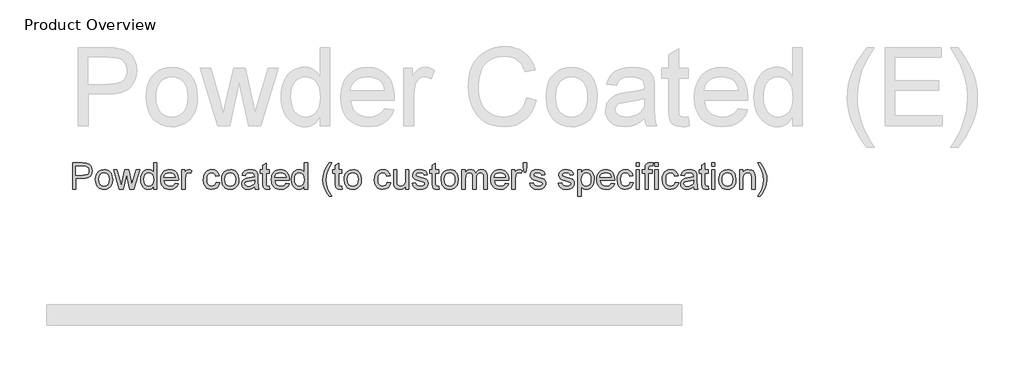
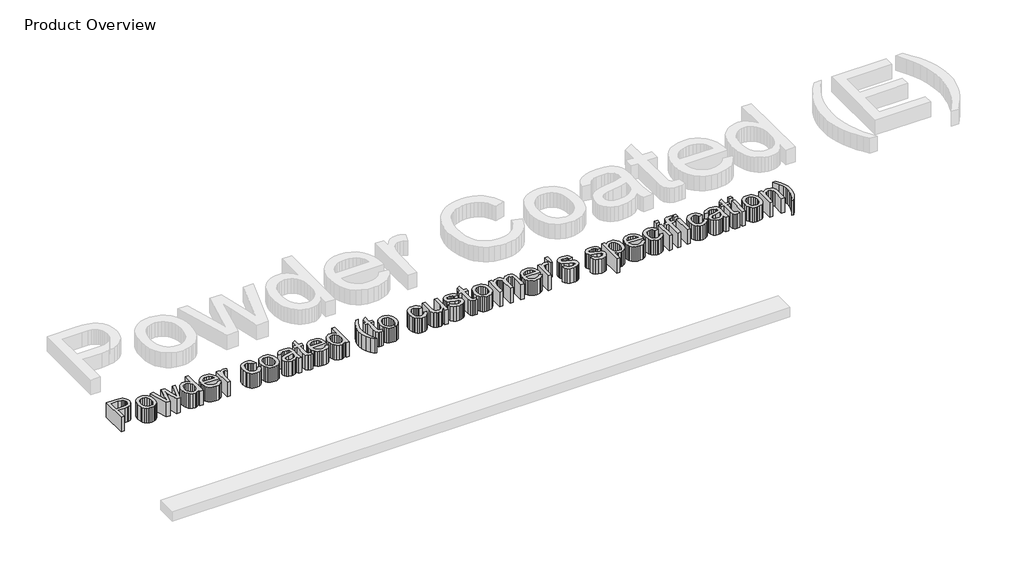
# One storey, part 4 of 12: 1 proxy.
"""IFC4 building model written with IfcOpenShell, lengths in millimetres."""

from ifc_helpers import new_model, si_unit, origin, origin_with_axes, place, context, project, spatial, polyline, outline, extrude, element, save

model = new_model("IFC4")

# Units and contexts
model_context = context("Model", 3, world=origin())
ifc_project = project(units=[si_unit("LENGTHUNIT", "METRE", prefix="MILLI")], contexts=[model_context])

# Site, building, storey
site = spatial("IfcSite", under=ifc_project)
building = spatial("IfcBuilding", under=site)
storey = spatial("IfcBuildingStorey", under=building, Name="Product Overview", Elevation=0.0)

# Proxy
placement = place(None, origin())
element("IfcBuildingElementProxy", 1, Name="250.0", ObjectType="250.0", at=placement, inside=storey, context=model_context, shape_type="SweptSolid", body=[
    extrude(outline(polyline([(-4889.7471727, -17953.8362158), (-4889.7471727, -17707.6823697), (-4798.5212111, -17707.6823697), (-4761.742365, -17710.0261197), (-4745.343627, -17714.4056269), (-4731.8445284, -17721.5345331), (-4720.9746366, -17731.7358552), (-4712.4635188, -17745.3326101), (-4706.9647207, -17761.3707711), (-4705.131788, -17778.896312), (-4710.0822087, -17807.9077302), (-4724.9334707, -17832.0814081), (-4736.8268752, -17841.5991365), (-4752.7054058, -17848.3975139), (-4772.5690627, -17852.4765403), (-4796.4178457, -17853.8362158), (-4858.9779419, -17853.8362158), (-4858.9779419, -17953.8362158), (-4889.7471727, -17953.8362158)]), holes=[polyline([(-4858.9779419, -17823.0669851), (-4794.6149611, -17823.0669851), (-4767.3313073, -17820.2424658), (-4749.3024611, -17811.7689081), (-4739.2513794, -17798.1721533), (-4735.9010188, -17779.9780427), (-4737.8766799, -17766.1559274), (-4743.803663, -17754.4972735), (-4752.9457904, -17745.7232351), (-4764.5668842, -17740.5549658), (-4795.336115, -17738.4516004), (-4858.9779419, -17738.4516004), (-4858.9779419, -17823.0669851)])]), origin_with_axes(), (0.0, 0.0, 1.0), 150.0),
    extrude(outline(polyline([(-4674.3625573, -17863.4516004), (-4672.698645, -17840.0403925), (-4667.7069082, -17819.8668649), (-4659.3873469, -17802.9310175), (-4647.7399611, -17789.2328504), (-4623.07049, -17774.223836), (-4593.5332303, -17769.2208312), (-4576.5579449, -17770.7438931), (-4561.2090116, -17775.3130788), (-4547.4864305, -17782.9283883), (-4535.3902015, -17793.5898216), (-4525.5175302, -17806.9368018), (-4518.4656222, -17822.6087519), (-4512.8240957, -17860.927562), (-4515.3180861, -17892.0122976), (-4522.8000573, -17915.6751581), (-4535.0521606, -17933.3960115), (-4551.8565477, -17946.6547254), (-4571.8159828, -17954.9254586), (-4593.5332303, -17957.6823697), (-4610.7564124, -17956.1649418), (-4626.2480741, -17951.6126581), (-4640.0082153, -17944.0255187), (-4652.0368361, -17933.4035235), (-4661.8043391, -17919.926961), (-4668.781127, -17903.7761197), (-4674.3625573, -17863.4516004)]), holes=[polyline([(-4643.5933265, -17863.3915043), (-4640.0326294, -17891.2385596), (-4629.350538, -17911.0778024), (-4613.2748169, -17922.9543048), (-4593.5332303, -17926.9131389), (-4573.881788, -17922.9317687), (-4557.836115, -17910.9876581), (-4547.1540236, -17890.8854947), (-4543.5933265, -17862.4299658), (-4547.1765597, -17835.3942086), (-4557.9262592, -17815.8253985), (-4573.9944683, -17803.9488961), (-4593.5332303, -17799.990062), (-4613.2748169, -17803.9338721), (-4629.350538, -17815.7653024), (-4640.0326294, -17835.559473), (-4643.5933265, -17863.3915043)])]), origin_with_axes(), (0.0, 0.0, 1.0), 150.0),
    extrude(outline(polyline([(-4448.2207303, -17953.8362158), (-4503.2087111, -17773.0669851), (-4471.2375573, -17773.0669851), (-4440.0476534, -17878.5357351), (-4430.7327496, -17916.2160235), (-4423.100538, -17879.9179466), (-4398.2808265, -17773.0669851), (-4361.6221727, -17773.0669851), (-4336.9226534, -17879.6174658), (-4330.131788, -17912.490062), (-4320.3962111, -17877.8145812), (-4289.1462111, -17773.0669851), (-4257.054865, -17773.0669851), (-4312.4635188, -17953.8362158), (-4349.663038, -17953.8362158), (-4373.2808265, -17847.8266004), (-4380.131788, -17814.7737158), (-4410.600538, -17953.8362158), (-4448.2207303, -17953.8362158)])), origin_with_axes(), (0.0, 0.0, 1.0), 150.0),
    extrude(outline(polyline([(-4124.3625573, -17953.8362158), (-4124.3625573, -17924.8097735), (-4133.5685368, -17939.1915343), (-4144.7201294, -17949.4642206), (-4157.8173349, -17955.6278324), (-4172.8601534, -17957.6823697), (-4192.7519803, -17954.7076101), (-4210.961115, -17945.7833312), (-4226.3757784, -17931.5330307), (-4237.8841919, -17912.5802062), (-4245.0506582, -17889.6910836), (-4247.4394803, -17863.6318889), (-4245.2384587, -17837.895711), (-4238.6353938, -17814.6535235), (-4227.6377977, -17795.2274418), (-4212.2531823, -17780.9395812), (-4193.6459106, -17772.1505187), (-4172.9803457, -17769.2208312), (-4157.9262592, -17771.3166846), (-4144.6149611, -17777.6042447), (-4133.3319082, -17787.2421653), (-4124.3625573, -17799.3891004), (-4124.3625573, -17707.6823697), (-4093.5933265, -17707.6823697), (-4093.5933265, -17953.8362158), (-4124.3625573, -17953.8362158)]), holes=[polyline([(-4216.6702496, -17863.5116966), (-4213.1996967, -17891.3437278), (-4202.788038, -17911.1378985), (-4187.6588313, -17922.9693288), (-4170.0356342, -17926.9131389), (-4152.4199491, -17923.1496173), (-4137.6738553, -17911.8590524), (-4127.6903818, -17892.8311077), (-4124.3625573, -17865.8554466), (-4127.7504779, -17836.3632591), (-4137.91424, -17815.9155427), (-4153.0359347, -17803.9714322), (-4171.2976534, -17799.990062), (-4189.101139, -17803.8136798), (-4203.6894803, -17815.2845331), (-4213.4250573, -17834.9885596), (-4216.6702496, -17863.5116966)])]), origin_with_axes(), (0.0, 0.0, 1.0), 150.0),
    extrude(outline(polyline([(-3920.8769803, -17899.990062), (-3890.7087111, -17903.8362158), (-3901.5786029, -17926.567586), (-3918.9238553, -17943.5597735), (-3942.3538433, -17954.1517206), (-3971.4779419, -17957.6823697), (-3990.5697388, -17956.1593078), (-4007.5807063, -17951.5901221), (-4022.5108445, -17943.9748126), (-4035.3601534, -17933.3133793), (-4045.6929359, -17919.902547), (-4053.0734948, -17904.0390403), (-4057.5018301, -17885.7228595), (-4058.9779419, -17864.9540043), (-4057.4868061, -17843.4808973), (-4053.0133986, -17824.5543649), (-4045.5577195, -17808.1744069), (-4035.1197688, -17794.3410235), (-4022.304264, -17783.3509394), (-4007.7159227, -17775.5008793), (-3991.3547448, -17770.7908432), (-3973.2207303, -17769.2208312), (-3955.6707754, -17770.7870872), (-3939.7997568, -17775.4858552), (-3925.6076745, -17783.3171353), (-3913.0945284, -17794.2809274), (-3902.8800603, -17808.0842627), (-3895.5840116, -17824.4341726), (-3891.2063824, -17843.3306569), (-3889.7471727, -17864.7737158), (-3889.9274611, -17873.0669851), (-4028.2087111, -17873.0669851), (-4022.8826895, -17896.098836), (-4010.5103938, -17913.0309274), (-3992.6543241, -17923.442586), (-3970.8769803, -17926.9131389), (-3954.5007784, -17925.3055668), (-3940.7087111, -17920.4828504), (-3929.5007784, -17912.1445091), (-3920.8769803, -17899.990062)]), holes=[polyline([(-4028.2087111, -17842.2977543), (-3920.5164034, -17842.2977543), (-3924.6780621, -17826.0417447), (-3932.836115, -17814.4131389), (-3950.7748169, -17803.5958312), (-3973.3409227, -17799.990062), (-3994.0816078, -17802.8671653), (-4011.2315477, -17811.4984754), (-4023.1531222, -17824.9525019), (-4028.2087111, -17842.2977543)])]), origin_with_axes(), (0.0, 0.0, 1.0), 150.0),
    extrude(outline(polyline([(-3858.9779419, -17953.8362158), (-3858.9779419, -17773.0669851), (-3832.054865, -17773.0669851), (-3832.054865, -17799.8097735), (-3822.1089515, -17784.3049658), (-3812.944288, -17775.1703504), (-3793.7135188, -17769.2208312), (-3778.3889996, -17771.5946293), (-3762.8240957, -17778.7160235), (-3773.100538, -17806.3001581), (-3794.7351534, -17799.990062), (-3803.9223529, -17801.5074899), (-3812.13299, -17806.0597735), (-3823.2207303, -17822.8866966), (-3828.2087111, -17858.8241966), (-3828.2087111, -17953.8362158), (-3858.9779419, -17953.8362158)])), origin_with_axes(), (0.0, 0.0, 1.0), 150.0),
    extrude(outline(polyline([(-3532.054865, -17888.4516004), (-3501.2856342, -17892.2977543), (-3509.8643602, -17919.6640403), (-3525.9851534, -17940.3446293), (-3548.1305861, -17953.3479346), (-3574.7832303, -17957.6823697), (-3592.0402165, -17956.1705758), (-3607.5130981, -17951.6351942), (-3621.2018752, -17944.0762248), (-3633.1065477, -17933.4936677), (-3642.7425903, -17920.0865914), (-3649.6254779, -17904.0540644), (-3655.131788, -17864.1126581), (-3652.780526, -17836.731348), (-3645.72674, -17813.0008793), (-3633.8577496, -17793.8377182), (-3617.0608746, -17780.1583312), (-3596.9662231, -17771.9552062), (-3575.2039034, -17769.2208312), (-3549.2048049, -17772.9768408), (-3528.4190477, -17784.2448697), (-3513.5076895, -17802.4239562), (-3505.131788, -17826.9131389), (-3535.9010188, -17830.7592927), (-3541.4824491, -17817.3353144), (-3550.1738553, -17807.7124177), (-3561.4944683, -17801.9206509), (-3574.9635188, -17799.990062), (-3594.8478337, -17803.7911437), (-3610.6305861, -17815.1943889), (-3620.9295645, -17834.8157831), (-3624.3625573, -17863.271312), (-3621.0046847, -17892.1099538), (-3610.9310669, -17911.7989562), (-3595.4337712, -17923.1345932), (-3575.804865, -17926.9131389), (-3559.8718722, -17924.5543649), (-3546.8084707, -17917.4780427), (-3537.3057664, -17905.5038841), (-3532.054865, -17888.4516004)])), origin_with_axes(), (0.0, 0.0, 1.0), 150.0),
    extrude(outline(polyline([(-3482.054865, -17863.4516004), (-3480.3909527, -17840.0403925), (-3475.3992159, -17819.8668649), (-3467.0796546, -17802.9310175), (-3455.4322688, -17789.2328504), (-3430.7627977, -17774.223836), (-3401.225538, -17769.2208312), (-3384.2502526, -17770.7438931), (-3368.9013193, -17775.3130788), (-3355.1787382, -17782.9283883), (-3343.0825092, -17793.5898216), (-3333.2098379, -17806.9368018), (-3326.1579299, -17822.6087519), (-3320.5164034, -17860.927562), (-3323.0103938, -17892.0122976), (-3330.492365, -17915.6751581), (-3342.7444683, -17933.3960115), (-3359.5488553, -17946.6547254), (-3379.5082904, -17954.9254586), (-3401.225538, -17957.6823697), (-3418.4487201, -17956.1649418), (-3433.9403818, -17951.6126581), (-3447.700523, -17944.0255187), (-3459.7291438, -17933.4035235), (-3469.4966468, -17919.926961), (-3476.4734347, -17903.7761197), (-3482.054865, -17863.4516004)]), holes=[polyline([(-3451.2856342, -17863.3915043), (-3447.7249371, -17891.2385596), (-3437.0428457, -17911.0778024), (-3420.9671246, -17922.9543048), (-3401.225538, -17926.9131389), (-3381.5740957, -17922.9317687), (-3365.5284227, -17910.9876581), (-3354.8463313, -17890.8854947), (-3351.2856342, -17862.4299658), (-3354.8688674, -17835.3942086), (-3365.6185669, -17815.8253985), (-3381.686776, -17803.9488961), (-3401.225538, -17799.990062), (-3420.9671246, -17803.9338721), (-3437.0428457, -17815.7653024), (-3447.7249371, -17835.559473), (-3451.2856342, -17863.3915043)])]), origin_with_axes(), (0.0, 0.0, 1.0), 150.0),
    extrude(outline(polyline([(-3170.5164034, -17930.7592927), (-3185.2174251, -17943.364461), (-3200.3541438, -17951.6126581), (-3216.2721126, -17956.1649418), (-3233.3168842, -17957.6823697), (-3259.030526, -17954.0315283), (-3277.9983746, -17943.0790043), (-3289.6945885, -17926.4473937), (-3293.5933265, -17905.7592927), (-3287.7039034, -17881.4203504), (-3272.2291438, -17863.7520812), (-3250.6846727, -17853.6559274), (-3224.0620765, -17849.0285235), (-3170.6966919, -17838.4516004), (-3170.5164034, -17831.6006389), (-3172.6347928, -17817.8686677), (-3178.9899611, -17808.8842927), (-3193.2027015, -17802.2136197), (-3213.0043842, -17799.990062), (-3231.3337111, -17801.4699298), (-3244.1341919, -17805.9095331), (-3252.8631582, -17814.1201702), (-3258.9779419, -17826.9131389), (-3289.7471727, -17823.0669851), (-3284.406127, -17806.240062), (-3276.4358746, -17793.0189081), (-3265.0927255, -17782.9077302), (-3249.63299, -17775.4107351), (-3230.7252376, -17770.7683072), (-3209.038038, -17769.2208312), (-3188.2372568, -17770.5880187), (-3171.7483746, -17774.6895812), (-3159.3159828, -17780.856949), (-3150.6846727, -17788.4215524), (-3141.2495765, -17809.3049658), (-3139.7471727, -17836.2280427), (-3139.7471727, -17874.5092927), (-3138.1846727, -17927.9648216), (-3132.054865, -17953.8362158), (-3162.8240957, -17953.8362158), (-3170.5164034, -17930.7592927)]), holes=[polyline([(-3170.5164034, -17869.2208312), (-3220.1558265, -17878.6559274), (-3246.6281823, -17883.6439081), (-3258.617365, -17891.7568889), (-3262.8240957, -17903.5958312), (-3260.5329299, -17912.7454706), (-3253.6594323, -17920.2424658), (-3242.3538433, -17925.2454706), (-3226.7664034, -17926.9131389), (-3210.2399611, -17925.0726942), (-3195.6365957, -17919.5513601), (-3183.7976534, -17911.4158432), (-3175.5644803, -17901.7328504), (-3170.6966919, -17877.9347735), (-3170.5164034, -17869.2208312)])]), origin_with_axes(), (0.0, 0.0, 1.0), 150.0),
    extrude(outline(polyline([(-3032.054865, -17928.1751581), (-3028.2087111, -17954.7376581), (-3051.225538, -17957.6823697), (-3065.9941678, -17956.4053264), (-3077.006788, -17952.5741966), (-3089.867365, -17939.1727543), (-3093.5933265, -17904.2568889), (-3093.5933265, -17803.8362158), (-3116.6702496, -17803.8362158), (-3116.6702496, -17773.0669851), (-3093.5933265, -17773.0669851), (-3093.5933265, -17729.1366966), (-3062.8240957, -17711.0477543), (-3062.8240957, -17773.0669851), (-3032.054865, -17773.0669851), (-3032.054865, -17803.8362158), (-3062.8240957, -17803.8362158), (-3062.8240957, -17903.3554466), (-3061.2014996, -17919.2208312), (-3055.9430861, -17924.8398216), (-3045.4563073, -17926.9131389), (-3032.054865, -17928.1751581)])), origin_with_axes(), (0.0, 0.0, 1.0), 150.0),
    extrude(outline(polyline([(-2874.7231342, -17899.990062), (-2844.554865, -17903.8362158), (-2855.4247568, -17926.567586), (-2872.7700092, -17943.5597735), (-2896.1999972, -17954.1517206), (-2925.3240957, -17957.6823697), (-2944.4158926, -17956.1593078), (-2961.4268602, -17951.5901221), (-2976.3569984, -17943.9748126), (-2989.2063073, -17933.3133793), (-2999.5390897, -17919.902547), (-3006.9196486, -17904.0390403), (-3011.347984, -17885.7228595), (-3012.8240957, -17864.9540043), (-3011.3329599, -17843.4808973), (-3006.8595525, -17824.5543649), (-2999.4038734, -17808.1744069), (-2988.9659227, -17794.3410235), (-2976.1504178, -17783.3509394), (-2961.5620765, -17775.5008793), (-2945.2008986, -17770.7908432), (-2927.0668842, -17769.2208312), (-2909.5169293, -17770.7870872), (-2893.6459106, -17775.4858552), (-2879.4538283, -17783.3171353), (-2866.9406823, -17794.2809274), (-2856.7262141, -17808.0842627), (-2849.4301654, -17824.4341726), (-2845.0525362, -17843.3306569), (-2843.5933265, -17864.7737158), (-2843.773615, -17873.0669851), (-2982.054865, -17873.0669851), (-2976.7288433, -17896.098836), (-2964.3565477, -17913.0309274), (-2946.5004779, -17923.442586), (-2924.7231342, -17926.9131389), (-2908.3469323, -17925.3055668), (-2894.554865, -17920.4828504), (-2883.3469323, -17912.1445091), (-2874.7231342, -17899.990062)]), holes=[polyline([(-2982.054865, -17842.2977543), (-2874.3625573, -17842.2977543), (-2878.5242159, -17826.0417447), (-2886.6822688, -17814.4131389), (-2904.6209707, -17803.5958312), (-2927.1870765, -17799.990062), (-2947.9277616, -17802.8671653), (-2965.0777015, -17811.4984754), (-2976.999276, -17824.9525019), (-2982.054865, -17842.2977543)])]), origin_with_axes(), (0.0, 0.0, 1.0), 150.0),
    extrude(outline(polyline([(-2701.2856342, -17953.8362158), (-2701.2856342, -17924.8097735), (-2710.4916138, -17939.1915343), (-2721.6432063, -17949.4642206), (-2734.7404118, -17955.6278324), (-2749.7832303, -17957.6823697), (-2769.6750573, -17954.7076101), (-2787.8841919, -17945.7833312), (-2803.2988553, -17931.5330307), (-2814.8072688, -17912.5802062), (-2821.9737352, -17889.6910836), (-2824.3625573, -17863.6318889), (-2822.1615356, -17837.895711), (-2815.5584707, -17814.6535235), (-2804.5608746, -17795.2274418), (-2789.1762592, -17780.9395812), (-2770.5689876, -17772.1505187), (-2749.9034227, -17769.2208312), (-2734.8493361, -17771.3166846), (-2721.538038, -17777.6042447), (-2710.2549852, -17787.2421653), (-2701.2856342, -17799.3891004), (-2701.2856342, -17707.6823697), (-2670.5164034, -17707.6823697), (-2670.5164034, -17953.8362158), (-2701.2856342, -17953.8362158)]), holes=[polyline([(-2793.5933265, -17863.5116966), (-2790.1227736, -17891.3437278), (-2779.711115, -17911.1378985), (-2764.5819082, -17922.9693288), (-2746.9587111, -17926.9131389), (-2729.343026, -17923.1496173), (-2714.5969323, -17911.8590524), (-2704.6134587, -17892.8311077), (-2701.2856342, -17865.8554466), (-2704.6735549, -17836.3632591), (-2714.8373169, -17815.9155427), (-2729.9590116, -17803.9714322), (-2748.2207303, -17799.990062), (-2766.0242159, -17803.8136798), (-2780.6125573, -17815.2845331), (-2790.3481342, -17834.9885596), (-2793.5933265, -17863.5116966)])]), origin_with_axes(), (0.0, 0.0, 1.0), 150.0),
    extrude(outline(polyline([(-2466.6702496, -18023.0669851), (-2490.5133986, -17989.6084514), (-2510.3601534, -17950.8915043), (-2523.7465717, -17908.7941485), (-2528.2087111, -17865.1943889), (-2524.8733746, -17826.958211), (-2514.867365, -17790.3746774), (-2495.0055861, -17748.9383793), (-2466.6702496, -17707.6823697), (-2443.5933265, -17707.6823697), (-2472.3793842, -17756.4203504), (-2489.6870765, -17803.6559274), (-2495.5013794, -17834.4401822), (-2497.4394803, -17865.3746774), (-2494.0740957, -17904.8202903), (-2483.9779419, -17944.2508793), (-2467.1510188, -17983.6664442), (-2443.5933265, -18023.0669851), (-2466.6702496, -18023.0669851)])), origin_with_axes(), (0.0, 0.0, 1.0), 150.0),
    extrude(outline(polyline([(-2347.4394803, -17928.1751581), (-2343.5933265, -17954.7376581), (-2366.6101534, -17957.6823697), (-2381.3787832, -17956.4053264), (-2392.3914034, -17952.5741966), (-2405.2519803, -17939.1727543), (-2408.9779419, -17904.2568889), (-2408.9779419, -17803.8362158), (-2432.054865, -17803.8362158), (-2432.054865, -17773.0669851), (-2408.9779419, -17773.0669851), (-2408.9779419, -17729.1366966), (-2378.2087111, -17711.0477543), (-2378.2087111, -17773.0669851), (-2347.4394803, -17773.0669851), (-2347.4394803, -17803.8362158), (-2378.2087111, -17803.8362158), (-2378.2087111, -17903.3554466), (-2376.586115, -17919.2208312), (-2371.3277015, -17924.8398216), (-2360.8409227, -17926.9131389), (-2347.4394803, -17928.1751581)])), origin_with_axes(), (0.0, 0.0, 1.0), 150.0),
    extrude(outline(polyline([(-2324.3625573, -17863.4516004), (-2322.698645, -17840.0403925), (-2317.7069082, -17819.8668649), (-2309.3873469, -17802.9310175), (-2297.7399611, -17789.2328504), (-2273.07049, -17774.223836), (-2243.5332303, -17769.2208312), (-2226.5579449, -17770.7438931), (-2211.2090116, -17775.3130788), (-2197.4864305, -17782.9283883), (-2185.3902015, -17793.5898216), (-2175.5175302, -17806.9368018), (-2168.4656222, -17822.6087519), (-2162.8240957, -17860.927562), (-2165.3180861, -17892.0122976), (-2172.8000573, -17915.6751581), (-2185.0521606, -17933.3960115), (-2201.8565477, -17946.6547254), (-2221.8159828, -17954.9254586), (-2243.5332303, -17957.6823697), (-2260.7564124, -17956.1649418), (-2276.2480741, -17951.6126581), (-2290.0082153, -17944.0255187), (-2302.0368361, -17933.4035235), (-2311.8043391, -17919.926961), (-2318.781127, -17903.7761197), (-2324.3625573, -17863.4516004)]), holes=[polyline([(-2293.5933265, -17863.3915043), (-2290.0326294, -17891.2385596), (-2279.350538, -17911.0778024), (-2263.2748169, -17922.9543048), (-2243.5332303, -17926.9131389), (-2223.881788, -17922.9317687), (-2207.836115, -17910.9876581), (-2197.1540236, -17890.8854947), (-2193.5933265, -17862.4299658), (-2197.1765597, -17835.3942086), (-2207.9262592, -17815.8253985), (-2223.9944683, -17803.9488961), (-2243.5332303, -17799.990062), (-2263.2748169, -17803.9338721), (-2279.350538, -17815.7653024), (-2290.0326294, -17835.559473), (-2293.5933265, -17863.3915043)])]), origin_with_axes(), (0.0, 0.0, 1.0), 150.0),
    extrude(outline(polyline([(-1916.6702496, -17888.4516004), (-1885.9010188, -17892.2977543), (-1894.4797448, -17919.6640403), (-1910.600538, -17940.3446293), (-1932.7459707, -17953.3479346), (-1959.398615, -17957.6823697), (-1976.6556011, -17956.1705758), (-1992.1284828, -17951.6351942), (-2005.8172598, -17944.0762248), (-2017.7219323, -17933.4936677), (-2027.3579749, -17920.0865914), (-2034.2408626, -17904.0540644), (-2039.7471727, -17864.1126581), (-2037.3959106, -17836.731348), (-2030.3421246, -17813.0008793), (-2018.4731342, -17793.8377182), (-2001.6762592, -17780.1583312), (-1981.5816078, -17771.9552062), (-1959.819288, -17769.2208312), (-1933.8201895, -17772.9768408), (-1913.0344323, -17784.2448697), (-1898.1230741, -17802.4239562), (-1889.7471727, -17826.9131389), (-1920.5164034, -17830.7592927), (-1926.0978337, -17817.3353144), (-1934.78924, -17807.7124177), (-1946.1098529, -17801.9206509), (-1959.5789034, -17799.990062), (-1979.4632183, -17803.7911437), (-1995.2459707, -17815.1943889), (-2005.5449491, -17834.8157831), (-2008.9779419, -17863.271312), (-2005.6200693, -17892.1099538), (-1995.5464515, -17911.7989562), (-1980.0491558, -17923.1345932), (-1960.4202496, -17926.9131389), (-1944.4872568, -17924.5543649), (-1931.4238553, -17917.4780427), (-1921.921151, -17905.5038841), (-1916.6702496, -17888.4516004)])), origin_with_axes(), (0.0, 0.0, 1.0), 150.0),
    extrude(outline(polyline([(-1743.5933265, -17953.8362158), (-1743.5933265, -17922.7665043), (-1754.726139, -17938.0421954), (-1767.6918842, -17948.9534033), (-1782.4905621, -17955.5001281), (-1799.1221727, -17957.6823697), (-1814.108651, -17956.1499177), (-1828.0584707, -17951.552562), (-1839.7621967, -17944.6415043), (-1848.0103938, -17936.1679466), (-1857.1750573, -17913.5116966), (-1858.9779419, -17884.9059274), (-1858.9779419, -17773.0669851), (-1828.2087111, -17773.0669851), (-1828.2087111, -17870.4227543), (-1826.3457303, -17901.7929466), (-1821.8610549, -17912.2571894), (-1814.1762592, -17920.2124177), (-1803.8021606, -17925.2379586), (-1791.2495765, -17926.9131389), (-1777.9758385, -17925.2003985), (-1765.5584707, -17920.0621774), (-1755.3195885, -17911.9717327), (-1748.5813073, -17901.4023216), (-1744.8403217, -17886.9266605), (-1743.5933265, -17867.1174658), (-1743.5933265, -17773.0669851), (-1712.8240957, -17773.0669851), (-1712.8240957, -17953.8362158), (-1743.5933265, -17953.8362158)])), origin_with_axes(), (0.0, 0.0, 1.0), 150.0),
    extrude(outline(polyline([(-1682.054865, -17899.990062), (-1651.2856342, -17896.1439081), (-1646.4328698, -17909.3049658), (-1637.0428457, -17918.9804466), (-1623.0554659, -17924.9299658), (-1604.4106342, -17926.9131389), (-1585.991163, -17925.0952302), (-1573.0404419, -17919.6415043), (-1565.3781823, -17911.7388601), (-1562.8240957, -17902.5741966), (-1565.3932063, -17894.7316485), (-1573.100538, -17888.7520812), (-1604.7712111, -17879.9780427), (-1651.1053457, -17864.9239562), (-1662.8316078, -17857.3593528), (-1671.3277015, -17847.3458312), (-1676.4884587, -17835.5219129), (-1678.2087111, -17822.5261197), (-1672.679865, -17799.599437), (-1657.5957303, -17782.0814081), (-1638.0344323, -17772.9768408), (-1611.5620765, -17769.2208312), (-1591.5350332, -17770.7307471), (-1574.1221727, -17775.2604947), (-1560.1197688, -17782.3668649), (-1550.3240957, -17791.6066485), (-1543.8337111, -17803.6634394), (-1539.7471727, -17819.2208312), (-1570.5164034, -17823.0669851), (-1574.4001174, -17813.3839923), (-1582.084913, -17806.0898216), (-1593.6459106, -17801.5150019), (-1609.1582303, -17799.990062), (-1626.8264996, -17801.4473937), (-1638.6053457, -17805.8193889), (-1645.2309467, -17812.1294851), (-1647.4394803, -17819.4011197), (-1643.773615, -17828.3554466), (-1632.2952496, -17835.146312), (-1605.7928457, -17841.6967927), (-1560.6305861, -17856.1799658), (-1548.7014996, -17863.1060476), (-1539.6570284, -17872.5862158), (-1533.9554058, -17884.6505187), (-1532.054865, -17899.3290043), (-1534.2859347, -17914.5032831), (-1540.9791438, -17928.7761197), (-1551.8790837, -17941.028223), (-1566.7303457, -17950.1403024), (-1584.6690477, -17955.7968528), (-1604.8313073, -17957.6823697), (-1635.8559467, -17954.0465524), (-1658.4971727, -17943.1391004), (-1673.6113553, -17925.0802062), (-1682.054865, -17899.990062)])), origin_with_axes(), (0.0, 0.0, 1.0), 150.0),
    extrude(outline(polyline([(-1432.054865, -17928.1751581), (-1428.2087111, -17954.7376581), (-1451.225538, -17957.6823697), (-1465.9941678, -17956.4053264), (-1477.006788, -17952.5741966), (-1489.867365, -17939.1727543), (-1493.5933265, -17904.2568889), (-1493.5933265, -17803.8362158), (-1516.6702496, -17803.8362158), (-1516.6702496, -17773.0669851), (-1493.5933265, -17773.0669851), (-1493.5933265, -17729.1366966), (-1462.8240957, -17711.0477543), (-1462.8240957, -17773.0669851), (-1432.054865, -17773.0669851), (-1432.054865, -17803.8362158), (-1462.8240957, -17803.8362158), (-1462.8240957, -17903.3554466), (-1461.2014996, -17919.2208312), (-1455.9430861, -17924.8398216), (-1445.4563073, -17926.9131389), (-1432.054865, -17928.1751581)])), origin_with_axes(), (0.0, 0.0, 1.0), 150.0),
    extrude(outline(polyline([(-1408.9779419, -17863.4516004), (-1407.3140296, -17840.0403925), (-1402.3222928, -17819.8668649), (-1394.0027316, -17802.9310175), (-1382.3553457, -17789.2328504), (-1357.6858746, -17774.223836), (-1328.148615, -17769.2208312), (-1311.1733295, -17770.7438931), (-1295.8243962, -17775.3130788), (-1282.1018151, -17782.9283883), (-1270.0055861, -17793.5898216), (-1260.1329148, -17806.9368018), (-1253.0810068, -17822.6087519), (-1247.4394803, -17860.927562), (-1249.9334707, -17892.0122976), (-1257.4154419, -17915.6751581), (-1269.6675453, -17933.3960115), (-1286.4719323, -17946.6547254), (-1306.4313674, -17954.9254586), (-1328.148615, -17957.6823697), (-1345.3717971, -17956.1649418), (-1360.8634587, -17951.6126581), (-1374.6235999, -17944.0255187), (-1386.6522207, -17933.4035235), (-1396.4197237, -17919.926961), (-1403.3965116, -17903.7761197), (-1408.9779419, -17863.4516004)]), holes=[polyline([(-1378.2087111, -17863.3915043), (-1374.648014, -17891.2385596), (-1363.9659227, -17911.0778024), (-1347.8902015, -17922.9543048), (-1328.148615, -17926.9131389), (-1308.4971727, -17922.9317687), (-1292.4514996, -17910.9876581), (-1281.7694082, -17890.8854947), (-1278.2087111, -17862.4299658), (-1281.7919443, -17835.3942086), (-1292.5416438, -17815.8253985), (-1308.6098529, -17803.9488961), (-1328.148615, -17799.990062), (-1347.8902015, -17803.9338721), (-1363.9659227, -17815.7653024), (-1374.648014, -17835.559473), (-1378.2087111, -17863.3915043)])]), origin_with_axes(), (0.0, 0.0, 1.0), 150.0),
    extrude(outline(polyline([(-1212.8240957, -17953.8362158), (-1212.8240957, -17773.0669851), (-1182.054865, -17773.0669851), (-1182.054865, -17802.8145812), (-1172.8000573, -17789.1502182), (-1160.9010188, -17778.4455908), (-1146.7633986, -17771.5270211), (-1130.7928457, -17769.2208312), (-1113.6804659, -17771.5720932), (-1099.9635188, -17778.6258793), (-1089.7171246, -17789.9164442), (-1083.0164034, -17804.9780427), (-1071.8009587, -17789.3342627), (-1059.00799, -17778.1601341), (-1044.6374972, -17771.4556569), (-1028.6894803, -17769.2208312), (-1005.5599731, -17772.9392807), (-988.4551053, -17784.0946293), (-977.8856943, -17802.9873577), (-974.3625573, -17829.9179466), (-974.3625573, -17953.8362158), (-1005.131788, -17953.8362158), (-1005.131788, -17843.1391004), (-1007.9863553, -17817.4479947), (-1018.3228938, -17804.7977543), (-1035.9010188, -17799.990062), (-1052.5701895, -17803.0699899), (-1066.1594323, -17812.3097735), (-1075.1963914, -17828.3404226), (-1078.2087111, -17851.7929466), (-1078.2087111, -17953.8362158), (-1108.9779419, -17953.8362158), (-1108.9779419, -17839.7136197), (-1110.7582904, -17822.3157831), (-1116.0993361, -17809.9059274), (-1125.4968722, -17802.4690283), (-1139.4466919, -17799.990062), (-1151.3006582, -17801.6427062), (-1162.2231342, -17806.6006389), (-1171.2375573, -17814.7436677), (-1177.367365, -17825.9516004), (-1182.054865, -17862.6703504), (-1182.054865, -17953.8362158), (-1212.8240957, -17953.8362158)])), origin_with_axes(), (0.0, 0.0, 1.0), 150.0),
    extrude(outline(polyline([(-801.6462111, -17899.990062), (-771.4779419, -17903.8362158), (-782.3478337, -17926.567586), (-799.6930861, -17943.5597735), (-823.1230741, -17954.1517206), (-852.2471727, -17957.6823697), (-871.3389695, -17956.1593078), (-888.3499371, -17951.5901221), (-903.2800753, -17943.9748126), (-916.1293842, -17933.3133793), (-926.4621666, -17919.902547), (-933.8427255, -17904.0390403), (-938.2710609, -17885.7228595), (-939.7471727, -17864.9540043), (-938.2560368, -17843.4808973), (-933.7826294, -17824.5543649), (-926.3269503, -17808.1744069), (-915.8889996, -17794.3410235), (-903.0734948, -17783.3509394), (-888.4851534, -17775.5008793), (-872.1239755, -17770.7908432), (-853.9899611, -17769.2208312), (-836.4400062, -17770.7870872), (-820.5689876, -17775.4858552), (-806.3769052, -17783.3171353), (-793.8637592, -17794.2809274), (-783.649291, -17808.0842627), (-776.3532424, -17824.4341726), (-771.9756132, -17843.3306569), (-770.5164034, -17864.7737158), (-770.6966919, -17873.0669851), (-908.9779419, -17873.0669851), (-903.6519203, -17896.098836), (-891.2796246, -17913.0309274), (-873.4235549, -17923.442586), (-851.6462111, -17926.9131389), (-835.2700092, -17925.3055668), (-821.4779419, -17920.4828504), (-810.2700092, -17912.1445091), (-801.6462111, -17899.990062)]), holes=[polyline([(-908.9779419, -17842.2977543), (-801.2856342, -17842.2977543), (-805.4472928, -17826.0417447), (-813.6053457, -17814.4131389), (-831.5440477, -17803.5958312), (-854.1101534, -17799.990062), (-874.8508385, -17802.8671653), (-892.0007784, -17811.4984754), (-903.9223529, -17824.9525019), (-908.9779419, -17842.2977543)])]), origin_with_axes(), (0.0, 0.0, 1.0), 150.0),
    extrude(outline(polyline([(-739.7471727, -17953.8362158), (-739.7471727, -17773.0669851), (-712.8240957, -17773.0669851), (-712.8240957, -17799.8097735), (-702.8781823, -17784.3049658), (-693.7135188, -17775.1703504), (-674.4827496, -17769.2208312), (-659.1582303, -17771.5946293), (-643.5933265, -17778.7160235), (-653.8697688, -17806.3001581), (-675.5043842, -17799.990062), (-684.6915837, -17801.5074899), (-692.9022207, -17806.0597735), (-703.9899611, -17822.8866966), (-708.9779419, -17858.8241966), (-708.9779419, -17953.8362158), (-739.7471727, -17953.8362158)])), origin_with_axes(), (0.0, 0.0, 1.0), 150.0),
    extrude(outline(polyline([(-625.1438073, -17796.1439081), (-632.054865, -17749.4491966), (-632.054865, -17707.6823697), (-601.2856342, -17707.6823697), (-601.2856342, -17749.4491966), (-608.4971727, -17796.1439081), (-625.1438073, -17796.1439081)])), origin_with_axes(), (0.0, 0.0, 1.0), 150.0),
    extrude(outline(polyline([(-570.5164034, -17899.990062), (-539.7471727, -17896.1439081), (-534.8944082, -17909.3049658), (-525.5043842, -17918.9804466), (-511.5170044, -17924.9299658), (-492.8721727, -17926.9131389), (-474.4527015, -17925.0952302), (-461.5019803, -17919.6415043), (-453.8397207, -17911.7388601), (-451.2856342, -17902.5741966), (-453.8547448, -17894.7316485), (-461.5620765, -17888.7520812), (-493.2327496, -17879.9780427), (-539.5668842, -17864.9239562), (-551.2931462, -17857.3593528), (-559.78924, -17847.3458312), (-564.9499972, -17835.5219129), (-566.6702496, -17822.5261197), (-561.1414034, -17799.599437), (-546.0572688, -17782.0814081), (-526.4959707, -17772.9768408), (-500.023615, -17769.2208312), (-479.9965717, -17770.7307471), (-462.5837111, -17775.2604947), (-448.5813073, -17782.3668649), (-438.7856342, -17791.6066485), (-432.2952496, -17803.6634394), (-428.2087111, -17819.2208312), (-458.9779419, -17823.0669851), (-462.8616558, -17813.3839923), (-470.5464515, -17806.0898216), (-482.1074491, -17801.5150019), (-497.6197688, -17799.990062), (-515.288038, -17801.4473937), (-527.0668842, -17805.8193889), (-533.6924852, -17812.1294851), (-535.9010188, -17819.4011197), (-532.2351534, -17828.3554466), (-520.756788, -17835.146312), (-494.2543842, -17841.6967927), (-449.0921246, -17856.1799658), (-437.163038, -17863.1060476), (-428.1185669, -17872.5862158), (-422.4169443, -17884.6505187), (-420.5164034, -17899.3290043), (-422.7474731, -17914.5032831), (-429.4406823, -17928.7761197), (-440.3406222, -17941.028223), (-455.1918842, -17950.1403024), (-473.1305861, -17955.7968528), (-493.2928457, -17957.6823697), (-524.3174852, -17954.0465524), (-546.9587111, -17943.1391004), (-562.0728938, -17925.0802062), (-570.5164034, -17899.990062)])), origin_with_axes(), (0.0, 0.0, 1.0), 150.0),
    extrude(outline(polyline([(-301.2856342, -17899.990062), (-270.5164034, -17896.1439081), (-265.663639, -17909.3049658), (-256.273615, -17918.9804466), (-242.2862352, -17924.9299658), (-223.6414034, -17926.9131389), (-205.2219323, -17925.0952302), (-192.2712111, -17919.6415043), (-184.6089515, -17911.7388601), (-182.054865, -17902.5741966), (-184.6239755, -17894.7316485), (-192.3313073, -17888.7520812), (-224.0019803, -17879.9780427), (-270.336115, -17864.9239562), (-282.062377, -17857.3593528), (-290.5584707, -17847.3458312), (-295.7192279, -17835.5219129), (-297.4394803, -17822.5261197), (-291.9106342, -17799.599437), (-276.8264996, -17782.0814081), (-257.2652015, -17772.9768408), (-230.7928457, -17769.2208312), (-210.7658025, -17770.7307471), (-193.3529419, -17775.2604947), (-179.350538, -17782.3668649), (-169.554865, -17791.6066485), (-163.0644803, -17803.6634394), (-158.9779419, -17819.2208312), (-189.7471727, -17823.0669851), (-193.6308866, -17813.3839923), (-201.3156823, -17806.0898216), (-212.8766799, -17801.5150019), (-228.3889996, -17799.990062), (-246.0572688, -17801.4473937), (-257.836115, -17805.8193889), (-264.4617159, -17812.1294851), (-266.6702496, -17819.4011197), (-263.0043842, -17828.3554466), (-251.5260188, -17835.146312), (-225.023615, -17841.6967927), (-179.8613553, -17856.1799658), (-167.9322688, -17863.1060476), (-158.8877977, -17872.5862158), (-153.1861751, -17884.6505187), (-151.2856342, -17899.3290043), (-153.5167039, -17914.5032831), (-160.209913, -17928.7761197), (-171.1098529, -17941.028223), (-185.961115, -17950.1403024), (-203.8998169, -17955.7968528), (-224.0620765, -17957.6823697), (-255.0867159, -17954.0465524), (-277.7279419, -17943.1391004), (-292.8421246, -17925.0802062), (-301.2856342, -17899.990062)])), origin_with_axes(), (0.0, 0.0, 1.0), 150.0),
    extrude(outline(polyline([(-116.6702496, -18023.0669851), (-116.6702496, -17773.0669851), (-85.9010188, -17773.0669851), (-85.9010188, -17803.2352543), (-75.8649611, -17788.3539442), (-64.6269803, -17777.724437), (-51.5260188, -17771.3467327), (-35.9010188, -17769.2208312), (-15.0927255, -17772.1955908), (3.101385, -17781.1198697), (17.915087, -17795.4528024), (28.5821543, -17814.6535235), (35.0274668, -17837.3247976), (37.1759043, -17862.0693889), (34.7495221, -17888.3839923), (27.4703754, -17911.9191485), (15.571337, -17931.4804466), (-0.7147207, -17945.8734754), (-19.6825693, -17954.7301461), (-39.6269803, -17957.6823697), (-53.7721126, -17955.7067086), (-66.3998169, -17949.7797254), (-85.9010188, -17929.7977543), (-85.9010188, -18023.0669851), (-116.6702496, -18023.0669851)]), holes=[polyline([(-85.9010188, -17864.8939081), (-82.5731943, -17892.4780427), (-72.5897207, -17911.7689081), (-57.858651, -17923.1270812), (-40.288038, -17926.9131389), (-22.4319683, -17922.9918649), (-7.3252977, -17911.2280427), (2.9736807, -17891.2310476), (6.4066735, -17862.6102543), (3.0563129, -17835.1763601), (-6.9947688, -17815.615062), (-21.7033025, -17803.896312), (-39.0260188, -17799.990062), (-56.4163433, -17804.1442086), (-71.6882784, -17816.6066485), (-82.3478337, -17836.9867567), (-85.9010188, -17864.8939081)])]), origin_with_axes(), (0.0, 0.0, 1.0), 150.0),
    extrude(outline(polyline([(198.3537889, -17899.990062), (228.5220581, -17903.8362158), (217.6521663, -17926.567586), (200.3069139, -17943.5597735), (176.8769259, -17954.1517206), (147.7528273, -17957.6823697), (128.6610305, -17956.1593078), (111.6500629, -17951.5901221), (96.7199247, -17943.9748126), (83.8706158, -17933.3133793), (73.5378334, -17919.902547), (66.1572745, -17904.0390403), (61.7289391, -17885.7228595), (60.2528273, -17864.9540043), (61.7439632, -17843.4808973), (66.2173706, -17824.5543649), (73.6730497, -17808.1744069), (84.1110004, -17794.3410235), (96.9265052, -17783.3509394), (111.5148466, -17775.5008793), (127.8760245, -17770.7908432), (146.0100389, -17769.2208312), (163.5599938, -17770.7870872), (179.4310124, -17775.4858552), (193.6230948, -17783.3171353), (206.1362408, -17794.2809274), (216.350709, -17808.0842627), (223.6467576, -17824.4341726), (228.0243868, -17843.3306569), (229.4835966, -17864.7737158), (229.3033081, -17873.0669851), (91.0220581, -17873.0669851), (96.3480797, -17896.098836), (108.7203754, -17913.0309274), (126.5764451, -17923.442586), (148.3537889, -17926.9131389), (164.7299908, -17925.3055668), (178.5220581, -17920.4828504), (189.7299908, -17912.1445091), (198.3537889, -17899.990062)]), holes=[polyline([(91.0220581, -17842.2977543), (198.7143658, -17842.2977543), (194.5527072, -17826.0417447), (186.3946543, -17814.4131389), (168.4559523, -17803.5958312), (145.8898466, -17799.990062), (125.1491615, -17802.8671653), (107.9992216, -17811.4984754), (96.0776471, -17824.9525019), (91.0220581, -17842.2977543)])]), origin_with_axes(), (0.0, 0.0, 1.0), 150.0),
    extrude(outline(polyline([(375.6374427, -17888.4516004), (406.4066735, -17892.2977543), (397.8279475, -17919.6640403), (381.7071543, -17940.3446293), (359.5617216, -17953.3479346), (332.9090773, -17957.6823697), (315.6520912, -17956.1705758), (300.1792096, -17951.6351942), (286.4904325, -17944.0762248), (274.58576, -17933.4936677), (264.9497174, -17920.0865914), (258.0668297, -17904.0540644), (252.5605197, -17864.1126581), (254.9117817, -17836.731348), (261.9655677, -17813.0008793), (273.8345581, -17793.8377182), (290.6314331, -17780.1583312), (310.7260846, -17771.9552062), (332.4884043, -17769.2208312), (358.4875028, -17772.9768408), (379.27326, -17784.2448697), (394.1846182, -17802.4239562), (402.5605197, -17826.9131389), (371.7912889, -17830.7592927), (366.2098586, -17817.3353144), (357.5184523, -17807.7124177), (346.1978394, -17801.9206509), (332.7287889, -17799.990062), (312.844474, -17803.7911437), (297.0617216, -17815.1943889), (286.7627432, -17834.8157831), (283.3297504, -17863.271312), (286.687623, -17892.1099538), (296.7612408, -17911.7989562), (312.2585365, -17923.1345932), (331.8874427, -17926.9131389), (347.8204355, -17924.5543649), (360.883837, -17917.4780427), (370.3865413, -17905.5038841), (375.6374427, -17888.4516004)])), origin_with_axes(), (0.0, 0.0, 1.0), 150.0),
    extrude(outline(polyline([(433.3297504, -17953.8362158), (433.3297504, -17773.0669851), (464.0989812, -17773.0669851), (464.0989812, -17953.8362158), (433.3297504, -17953.8362158)])), origin_with_axes(), (0.0, 0.0, 1.0), 150.0),
    extrude(outline(polyline([(433.3297504, -17738.4516004), (433.3297504, -17707.6823697), (464.0989812, -17707.6823697), (464.0989812, -17738.4516004), (433.3297504, -17738.4516004)])), origin_with_axes(), (0.0, 0.0, 1.0), 150.0),
    extrude(outline(polyline([(517.945135, -17953.8362158), (517.945135, -17803.8362158), (491.0220581, -17803.8362158), (491.0220581, -17773.0669851), (517.945135, -17773.0669851), (517.945135, -17754.8578504), (521.1903273, -17729.1967927), (527.3802312, -17718.9654226), (536.9355197, -17710.8674658), (550.3069139, -17705.5940283), (567.945135, -17703.8362158), (596.0100389, -17707.2016004), (591.5028273, -17736.0477543), (573.774462, -17734.6054466), (562.078248, -17735.8824899), (554.3934523, -17739.7136197), (550.1341374, -17747.0303264), (548.7143658, -17758.7641004), (548.7143658, -17773.0669851), (583.3297504, -17773.0669851), (583.3297504, -17803.8362158), (548.7143658, -17803.8362158), (548.7143658, -17953.8362158), (517.945135, -17953.8362158)])), origin_with_axes(), (0.0, 0.0, 1.0), 150.0),
    extrude(outline(polyline([(610.2528273, -17953.8362158), (610.2528273, -17773.0669851), (641.0220581, -17773.0669851), (641.0220581, -17953.8362158), (610.2528273, -17953.8362158)])), origin_with_axes(), (0.0, 0.0, 1.0), 150.0),
    extrude(outline(polyline([(610.2528273, -17738.4516004), (610.2528273, -17707.6823697), (641.0220581, -17707.6823697), (641.0220581, -17738.4516004), (610.2528273, -17738.4516004)])), origin_with_axes(), (0.0, 0.0, 1.0), 150.0),
    extrude(outline(polyline([(802.5605197, -17888.4516004), (833.3297504, -17892.2977543), (824.7510245, -17919.6640403), (808.6302312, -17940.3446293), (786.4847985, -17953.3479346), (759.8321543, -17957.6823697), (742.5751681, -17956.1705758), (727.1022865, -17951.6351942), (713.4135094, -17944.0762248), (701.508837, -17933.4936677), (691.8727943, -17920.0865914), (684.9899067, -17904.0540644), (679.4835966, -17864.1126581), (681.8348586, -17836.731348), (688.8886447, -17813.0008793), (700.757635, -17793.8377182), (717.55451, -17780.1583312), (737.6491615, -17771.9552062), (759.4114812, -17769.2208312), (785.4105797, -17772.9768408), (806.196337, -17784.2448697), (821.1076951, -17802.4239562), (829.4835966, -17826.9131389), (798.7143658, -17830.7592927), (793.1329355, -17817.3353144), (784.4415293, -17807.7124177), (773.1209163, -17801.9206509), (759.6518658, -17799.990062), (739.7675509, -17803.7911437), (723.9847985, -17815.1943889), (713.6858201, -17834.8157831), (710.2528273, -17863.271312), (713.6106999, -17892.1099538), (723.6843177, -17911.7989562), (739.1816134, -17923.1345932), (758.8105197, -17926.9131389), (774.7435124, -17924.5543649), (787.8069139, -17917.4780427), (797.3096182, -17905.5038841), (802.5605197, -17888.4516004)])), origin_with_axes(), (0.0, 0.0, 1.0), 150.0),
    extrude(outline(polyline([(975.6374427, -17930.7592927), (960.9364211, -17943.364461), (945.7997023, -17951.6126581), (929.8817336, -17956.1649418), (912.836962, -17957.6823697), (887.1233201, -17954.0315283), (868.1554716, -17943.0790043), (856.4592576, -17926.4473937), (852.5605197, -17905.7592927), (858.4499427, -17881.4203504), (873.9247023, -17863.7520812), (895.4691735, -17853.6559274), (922.0917697, -17849.0285235), (975.4571543, -17838.4516004), (975.6374427, -17831.6006389), (973.5190533, -17817.8686677), (967.163885, -17808.8842927), (952.9511447, -17802.2136197), (933.149462, -17799.990062), (914.820135, -17801.4699298), (902.0196543, -17805.9095331), (893.2906879, -17814.1201702), (887.1759043, -17826.9131389), (856.4066735, -17823.0669851), (861.7477192, -17806.240062), (869.7179716, -17793.0189081), (881.0611206, -17782.9077302), (896.5208562, -17775.4107351), (915.4286086, -17770.7683072), (937.1158081, -17769.2208312), (957.9165894, -17770.5880187), (974.4054716, -17774.6895812), (986.8378634, -17780.856949), (995.4691735, -17788.4215524), (1004.9042697, -17809.3049658), (1006.4066735, -17836.2280427), (1006.4066735, -17874.5092927), (1007.9691735, -17927.9648216), (1014.0989812, -17953.8362158), (983.3297504, -17953.8362158), (975.6374427, -17930.7592927)]), holes=[polyline([(975.6374427, -17869.2208312), (925.9980197, -17878.6559274), (899.5256639, -17883.6439081), (887.5364812, -17891.7568889), (883.3297504, -17903.5958312), (885.6209163, -17912.7454706), (892.4944139, -17920.2424658), (903.8000028, -17925.2454706), (919.3874427, -17926.9131389), (935.913885, -17925.0726942), (950.5172504, -17919.5513601), (962.3561927, -17911.4158432), (970.5893658, -17901.7328504), (975.4571543, -17877.9347735), (975.6374427, -17869.2208312)])]), origin_with_axes(), (0.0, 0.0, 1.0), 150.0),
    extrude(outline(polyline([(1114.0989812, -17928.1751581), (1117.945135, -17954.7376581), (1094.9283081, -17957.6823697), (1080.1596783, -17956.4053264), (1069.1470581, -17952.5741966), (1056.2864812, -17939.1727543), (1052.5605197, -17904.2568889), (1052.5605197, -17803.8362158), (1029.4835966, -17803.8362158), (1029.4835966, -17773.0669851), (1052.5605197, -17773.0669851), (1052.5605197, -17729.1366966), (1083.3297504, -17711.0477543), (1083.3297504, -17773.0669851), (1114.0989812, -17773.0669851), (1114.0989812, -17803.8362158), (1083.3297504, -17803.8362158), (1083.3297504, -17903.3554466), (1084.9523466, -17919.2208312), (1090.21076, -17924.8398216), (1100.6975389, -17926.9131389), (1114.0989812, -17928.1751581)])), origin_with_axes(), (0.0, 0.0, 1.0), 150.0),
    extrude(outline(polyline([(1144.868212, -17738.4516004), (1144.868212, -17707.6823697), (1175.6374427, -17707.6823697), (1175.6374427, -17738.4516004), (1144.868212, -17738.4516004)])), origin_with_axes(), (0.0, 0.0, 1.0), 150.0),
    extrude(outline(polyline([(1144.868212, -17953.8362158), (1144.868212, -17773.0669851), (1175.6374427, -17773.0669851), (1175.6374427, -17953.8362158), (1144.868212, -17953.8362158)])), origin_with_axes(), (0.0, 0.0, 1.0), 150.0),
    extrude(outline(polyline([(1214.0989812, -17863.4516004), (1215.7628934, -17840.0403925), (1220.7546302, -17819.8668649), (1229.0741915, -17802.9310175), (1240.7215773, -17789.2328504), (1265.3910485, -17774.223836), (1294.9283081, -17769.2208312), (1311.9035936, -17770.7438931), (1327.2525269, -17775.3130788), (1340.975108, -17782.9283883), (1353.071337, -17793.5898216), (1362.9440082, -17806.9368018), (1369.9959163, -17822.6087519), (1375.6374427, -17860.927562), (1373.1434523, -17892.0122976), (1365.6614812, -17915.6751581), (1353.4093778, -17933.3960115), (1336.6049908, -17946.6547254), (1316.6455557, -17954.9254586), (1294.9283081, -17957.6823697), (1277.705126, -17956.1649418), (1262.2134644, -17951.6126581), (1248.4533231, -17944.0255187), (1236.4247023, -17933.4035235), (1226.6571993, -17919.926961), (1219.6804115, -17903.7761197), (1214.0989812, -17863.4516004)]), holes=[polyline([(1244.868212, -17863.3915043), (1248.4289091, -17891.2385596), (1259.1110004, -17911.0778024), (1275.1867216, -17922.9543048), (1294.9283081, -17926.9131389), (1314.5797504, -17922.9317687), (1330.6254235, -17910.9876581), (1341.3075148, -17890.8854947), (1344.868212, -17862.4299658), (1341.2849788, -17835.3942086), (1330.5352793, -17815.8253985), (1314.4670701, -17803.9488961), (1294.9283081, -17799.990062), (1275.1867216, -17803.9338721), (1259.1110004, -17815.7653024), (1248.4289091, -17835.559473), (1244.868212, -17863.3915043)])]), origin_with_axes(), (0.0, 0.0, 1.0), 150.0),
    extrude(outline(polyline([(1410.2528273, -17953.8362158), (1410.2528273, -17773.0669851), (1441.0220581, -17773.0669851), (1441.0220581, -17798.3073697), (1451.7116615, -17785.5820091), (1464.5497023, -17776.4924658), (1479.5361807, -17771.0387399), (1496.6710966, -17769.2208312), (1525.727587, -17775.0802062), (1537.3111206, -17781.8560476), (1545.5593177, -17790.4648216), (1554.7840773, -17813.0910235), (1556.4066735, -17842.8386197), (1556.4066735, -17953.8362158), (1525.6374427, -17953.8362158), (1525.6374427, -17846.9852543), (1522.0917697, -17819.7616966), (1517.1864211, -17811.6562278), (1509.5617216, -17805.3686677), (1488.4379235, -17799.990062), (1470.4165894, -17803.0098937), (1455.05451, -17812.0693889), (1444.5301711, -17829.5723937), (1441.0220581, -17857.9227543), (1441.0220581, -17953.8362158), (1410.2528273, -17953.8362158)])), origin_with_axes(), (0.0, 0.0, 1.0), 150.0),
    extrude(outline(polyline([(1606.4066735, -18023.0669851), (1583.3297504, -18023.0669851), (1606.8874427, -17983.6664442), (1623.7143658, -17944.2508793), (1633.8105197, -17904.8202903), (1637.1759043, -17865.3746774), (1635.2378033, -17834.6655427), (1629.4235004, -17804.1967927), (1612.2960966, -17756.9011197), (1583.3297504, -17707.6823697), (1606.4066735, -17707.6823697), (1634.74201, -17748.9383793), (1654.6037889, -17790.3746774), (1664.6097985, -17826.958211), (1667.945135, -17865.1943889), (1663.4604596, -17908.7941485), (1650.0064331, -17950.8915043), (1630.1371422, -17989.6084514), (1606.4066735, -18023.0669851)])), origin_with_axes(), (0.0, 0.0, 1.0), 150.0),
])

save(model, "model.ifc")
